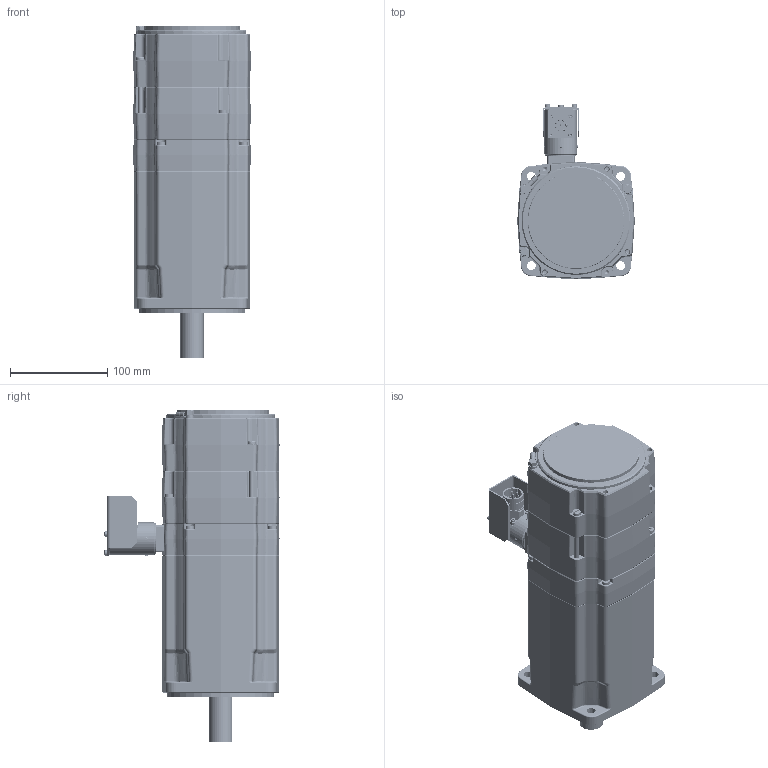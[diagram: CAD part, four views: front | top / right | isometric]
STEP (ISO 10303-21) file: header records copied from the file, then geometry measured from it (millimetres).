
FILE_DESCRIPTION((''),'2;1');
FILE_NAME('EY630EYR7310_ASM','2017-09-29T',('pf73167'),(''),'PRO/ENGINEER BY PARAMETRIC TECHNOLOGY CORPORATION, 2009400','PRO/ENGINEER BY PARAMETRIC TECHNOLOGY CORPORATION, 2009400','');
FILE_SCHEMA(('CONFIG_CONTROL_DESIGN'));
Length unit declared in the file: millimetre
Products named in the file (52): 344187P0020; 5116P1315; 301026P0030; 1150P0412; 344185P0004; 344182P0002; 344212P0001; 344182P0002_ASM; 220087P0013; 344186R0004_ASM; 5116P1319; 1645P0018; 1711P0019; 344181P0002; 344226R3000; 344562P0001; 344570P0001_ENROULE; 344229R3000_ASM; 344183P0005; 344184R3008_ASM; 1143P0515; 1613P0005; 1613P0023; 1317P0304; 5320P0028; 5340P0002; 283154_06_P1CF102_AF0; 283154_06_P1F501_AF0; 283154P0038_ASM; 1821P0017; 1143P0405; 344191P0001; 344191P0022; 1120P0079; 1642P0105; 6620P0014; 1145P0508; 345359P0002; 5340P0124; 5340P0125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
Assembly tree (122 placements, depth 4):
  EY630EYR7310_ASM
    344187P0020
    5116P1315
    301026P0030
    1150P0412  x3
    344186R0004_ASM
      344185P0004
      344182P0002_ASM
        344182P0002
        344212P0001  x2
      220087P0013  x30
    5116P1319
    1645P0018  x2
    1711P0019
    344184R3008_ASM
      344229R3000_ASM
        344181P0002
        344226R3000  x6
        344562P0001  x2
        344570P0001_ENROULE  x2
      344183P0005
    1143P0515  x6
    1613P0005  x3
    1613P0023  x2
    1317P0304
    5320P0028
    5340P0002  x3
    283154P0038_ASM
      283154_06_P1CF102_AF0
      283154_06_P1F501_AF0
    1821P0017
    1143P0405  x4
    344191P0001
    344191P0022
    1120P0079  x2
    1642P0105
    6620P0014
    1145P0508
    345359R1010_800_ASM
      345359P0002
      5340P0124
      5340P0125
      1150P0204  x8
      345359P0001
      1170P0042  x4
      220132P1010_ASM
        220132P1010_0001
        220132P1010_0002
        220132P0111  x4
        220132P0120  x3
      345359P0003
      1150P0305  x3
Bounding box: 121 x 180.2 x 341.8 mm (x, y, z)
Volume: 2264787.1 mm3; surface area: 820657.6 mm2
Topology: 119 solids, 138 shells, 6763 faces, 16156 edges, 9800 vertices
Faces by surface type: cylinder 2271, plane 2081, bspline 1108, cone 821, torus 431, sphere 31, extrusion 20
Entity records: 165152 total; most frequent: CARTESIAN_POINT 61778, ORIENTED_EDGE 21728, DIRECTION 20895, EDGE_CURVE 10864, AXIS2_PLACEMENT_3D 7909, VERTEX_POINT 6729, VECTOR 5077, LINE 5057
